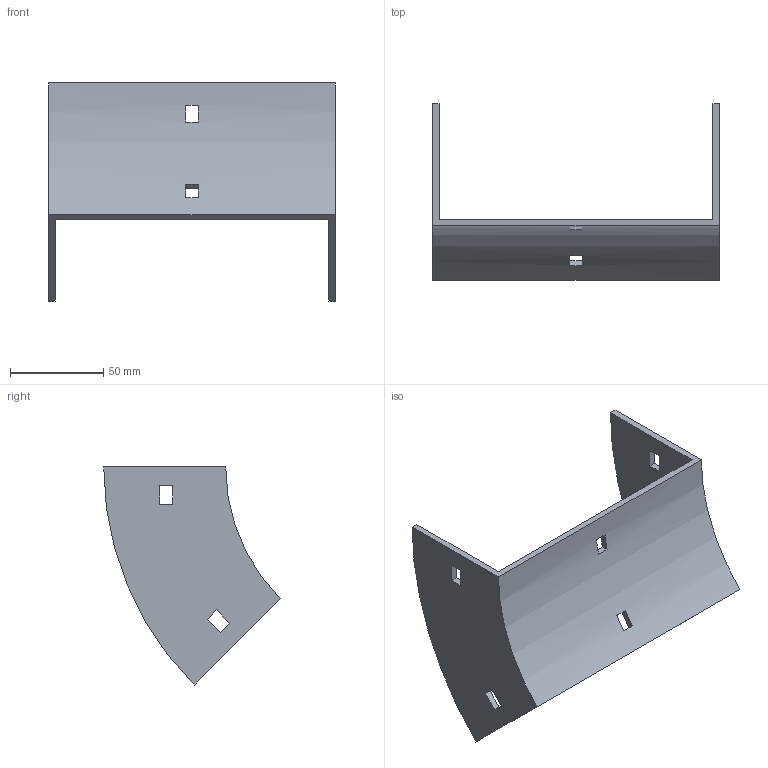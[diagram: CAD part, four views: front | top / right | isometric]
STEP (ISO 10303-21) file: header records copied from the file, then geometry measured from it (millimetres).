
FILE_DESCRIPTION (( 'STEP AP214' ), '1' );
FILE_NAME ('34B1H150.step', '2025-02-21T09:28:51', ( '' ), ( '' ), 'SwSTEP 2.0', 'SolidWorks 2023', '' );
FILE_SCHEMA (( 'AUTOMOTIVE_DESIGN' ));
Length unit declared in the file: millimetre
Products named in the file (1): 34B1H150
Bounding box: 154 x 94.79 x 117.03 mm (x, y, z)
Volume: 87524.7 mm3; surface area: 53556.4 mm2
Topology: 1 solids, 1 shells, 34 faces, 96 edges, 64 vertices
Faces by surface type: plane 30, cylinder 4
Entity records: 1143 total; most frequent: CARTESIAN_POINT 195, ORIENTED_EDGE 192, DIRECTION 182, EDGE_CURVE 96, VECTOR 80, LINE 80, VERTEX_POINT 64, AXIS2_PLACEMENT_3D 51
